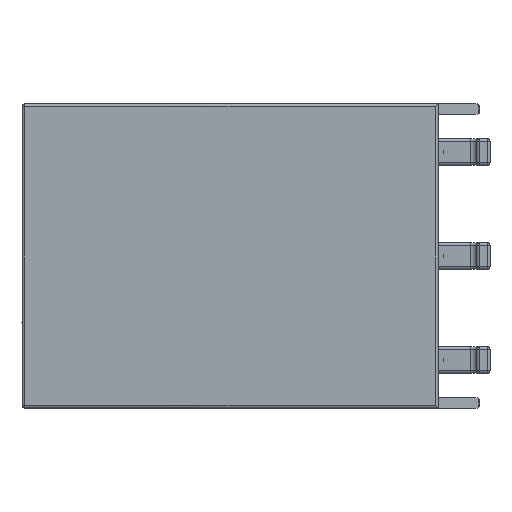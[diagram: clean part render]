
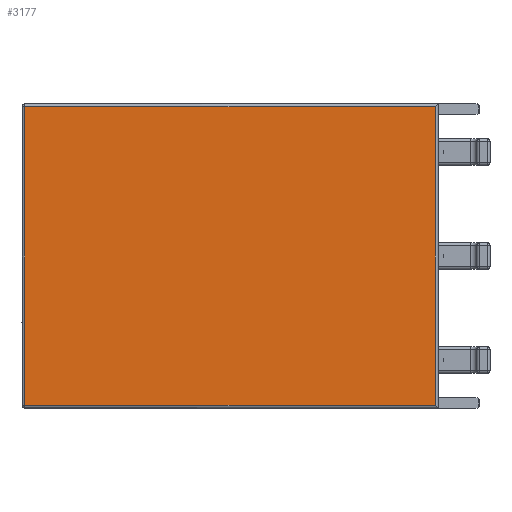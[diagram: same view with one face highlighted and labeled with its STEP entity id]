
A CAD part, left-side view. The second image highlights one B-rep face of the part: STEP entity #3177.
In plain terms, the highlighted planar face has unit normal (-1, 0, 0).
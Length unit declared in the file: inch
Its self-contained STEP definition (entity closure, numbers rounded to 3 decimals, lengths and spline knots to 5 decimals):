
#3149 = ORIENTED_EDGE ( 'NONE', *, *, #3150, .T. ) ;
#3150 = EDGE_CURVE ( 'NONE', #3179, #3151, #10912, .T. ) ;
#3151 = VERTEX_POINT ( 'NONE', #10966 ) ;
#3152 = ORIENTED_EDGE ( 'NONE', *, *, #3153, .T. ) ;
#3153 = EDGE_CURVE ( 'NONE', #3151, #3154, #10965, .T. ) ;
#3154 = VERTEX_POINT ( 'NONE', #10961 ) ;
#3155 = ORIENTED_EDGE ( 'NONE', *, *, #3156, .T. ) ;
#3156 = EDGE_CURVE ( 'NONE', #3154, #3157, #10960, .T. ) ;
#3157 = VERTEX_POINT ( 'NONE', #10956 ) ;
#3158 = ORIENTED_EDGE ( 'NONE', *, *, #3159, .T. ) ;
#3159 = EDGE_CURVE ( 'NONE', #3157, #3179, #10955, .T. ) ;
#3177 = ADVANCED_FACE ( 'NONE', ( #10984 ), #10983, .T. ) ;
#3178 = EDGE_LOOP ( 'NONE', ( #3149, #3152, #3155, #3158 ) ) ;
#3179 = VERTEX_POINT ( 'NONE', #10978 ) ;
#10912 = LINE ( 'NONE', #10969, #10968 ) ;
#10952 = DIRECTION ( 'NONE',  ( 0., 1., 0. ) ) ;
#10953 = VECTOR ( 'NONE', #10952, 39.37008 ) ;
#10954 = CARTESIAN_POINT ( 'NONE',  ( -0.3937, 0., 0.11319 ) ) ;
#10955 = LINE ( 'NONE', #10954, #10953 ) ;
#10956 = CARTESIAN_POINT ( 'NONE',  ( -0.3937, 0.00197, 0.11319 ) ) ;
#10957 = DIRECTION ( 'NONE',  ( 0., 0., 1. ) ) ;
#10958 = VECTOR ( 'NONE', #10957, 39.37008 ) ;
#10959 = CARTESIAN_POINT ( 'NONE',  ( -0.3937, 0.00197, 0.11516 ) ) ;
#10960 = LINE ( 'NONE', #10959, #10958 ) ;
#10961 = CARTESIAN_POINT ( 'NONE',  ( -0.3937, 0.00197, -0.11319 ) ) ;
#10962 = DIRECTION ( 'NONE',  ( 0., -1., 0. ) ) ;
#10963 = VECTOR ( 'NONE', #10962, 39.37008 ) ;
#10964 = CARTESIAN_POINT ( 'NONE',  ( -0.3937, 0.00003, -0.11319 ) ) ;
#10965 = LINE ( 'NONE', #10964, #10963 ) ;
#10966 = CARTESIAN_POINT ( 'NONE',  ( -0.39366, 0.31299, -0.11315 ) ) ;
#10967 = DIRECTION ( 'NONE',  ( 0., 0., -1. ) ) ;
#10968 = VECTOR ( 'NONE', #10967, 39.37008 ) ;
#10969 = CARTESIAN_POINT ( 'NONE',  ( -0.39366, 0.31299, -0.11512 ) ) ;
#10978 = CARTESIAN_POINT ( 'NONE',  ( -0.39366, 0.31299, 0.11315 ) ) ;
#10979 = DIRECTION ( 'NONE',  ( 0., -1., 0. ) ) ;
#10980 = DIRECTION ( 'NONE',  ( -1., 0., 0. ) ) ;
#10981 = CARTESIAN_POINT ( 'NONE',  ( -0.3937, 0., 0.11516 ) ) ;
#10982 = AXIS2_PLACEMENT_3D ( 'NONE', #10981, #10980, #10979 ) ;
#10983 = PLANE ( 'NONE',  #10982 ) ;
#10984 = FACE_OUTER_BOUND ( 'NONE', #3178, .T. ) ;
